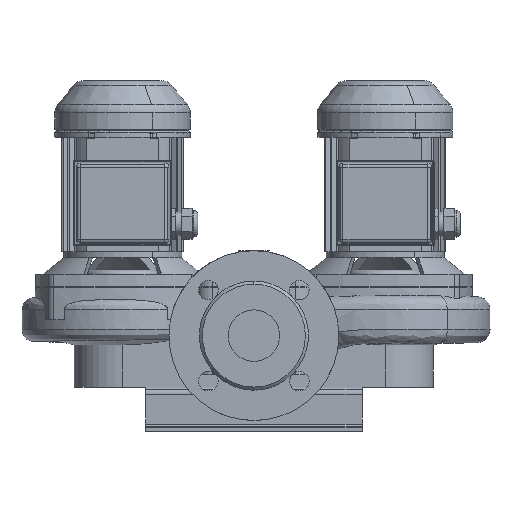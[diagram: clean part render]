
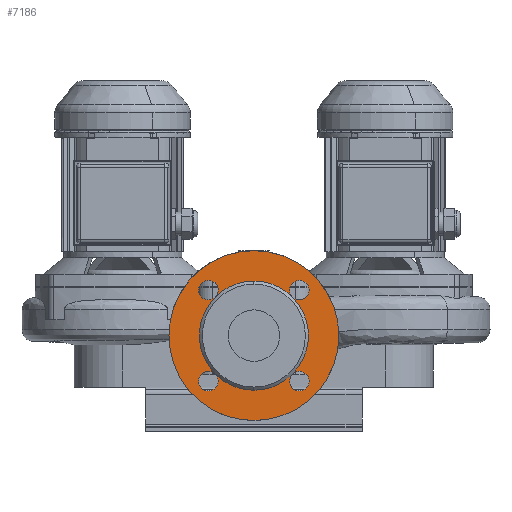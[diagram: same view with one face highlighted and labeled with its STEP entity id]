
A CAD part, front view. The second image highlights one B-rep face of the part: STEP entity #7186.
In plain terms, the highlighted planar face has unit normal (0, -1, 0) as drawn and (-1, 0, 0) by its records, which use the part's own axes.
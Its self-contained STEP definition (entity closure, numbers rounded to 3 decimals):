
#7186=ADVANCED_FACE('',(#14181,#14182),#14183,.T.);
#7230=EDGE_CURVE('',#14250,#14251,#14252,.T.);
#7232=EDGE_CURVE('',#14254,#14250,#14255,.T.);
#7234=EDGE_CURVE('',#14257,#14254,#14258,.T.);
#7238=EDGE_CURVE('',#14264,#14265,#14266,.T.);
#7242=EDGE_CURVE('',#14272,#14273,#14274,.T.);
#7246=EDGE_CURVE('',#14280,#14281,#14282,.T.);
#7250=EDGE_CURVE('',#14288,#14289,#14290,.T.);
#7254=EDGE_CURVE('',#14296,#14297,#14298,.T.);
#7446=EDGE_CURVE('',#14297,#14296,#14581,.T.);
#7450=EDGE_CURVE('',#14254,#14288,#14585,.T.);
#7452=EDGE_CURVE('',#14289,#14254,#14587,.T.);
#7454=EDGE_CURVE('',#14250,#14280,#14589,.T.);
#7456=EDGE_CURVE('',#14281,#14250,#14591,.T.);
#7458=EDGE_CURVE('',#14593,#14272,#14594,.T.);
#7460=EDGE_CURVE('',#14273,#14593,#14596,.T.);
#7462=EDGE_CURVE('',#14598,#14264,#14599,.T.);
#7464=EDGE_CURVE('',#14265,#14598,#14601,.T.);
#7466=EDGE_CURVE('',#14251,#14593,#14603,.T.);
#7468=EDGE_CURVE('',#14593,#14598,#14605,.T.);
#7470=EDGE_CURVE('',#14598,#14257,#14607,.T.);
#14181=FACE_OUTER_BOUND('',#24582,.T.);
#14182=FACE_BOUND('',#24583,.T.);
#14183=PLANE('',#24584);
#14250=VERTEX_POINT('',#25967);
#14251=VERTEX_POINT('',#25968);
#14252=CIRCLE('',#25969,53.0);
#14254=VERTEX_POINT('',#25972);
#14255=CIRCLE('',#25973,53.0);
#14257=VERTEX_POINT('',#25976);
#14258=CIRCLE('',#25977,53.0);
#14264=VERTEX_POINT('',#25985);
#14265=VERTEX_POINT('',#25986);
#14266=CIRCLE('',#25987,9.5);
#14272=VERTEX_POINT('',#25995);
#14273=VERTEX_POINT('',#25996);
#14274=CIRCLE('',#25997,9.5);
#14280=VERTEX_POINT('',#26005);
#14281=VERTEX_POINT('',#26006);
#14282=CIRCLE('',#26007,9.5);
#14288=VERTEX_POINT('',#26015);
#14289=VERTEX_POINT('',#26016);
#14290=CIRCLE('',#26017,9.5);
#14296=VERTEX_POINT('',#26025);
#14297=VERTEX_POINT('',#26026);
#14298=CIRCLE('',#26027,82.5);
#14581=CIRCLE('',#26486,82.5);
#14585=CIRCLE('',#26492,9.5);
#14587=CIRCLE('',#26495,9.5);
#14589=CIRCLE('',#26498,9.5);
#14591=CIRCLE('',#26501,9.5);
#14593=VERTEX_POINT('',#26504);
#14594=CIRCLE('',#26505,9.5);
#14596=CIRCLE('',#26508,9.5);
#14598=VERTEX_POINT('',#26511);
#14599=CIRCLE('',#26512,9.5);
#14601=CIRCLE('',#26515,9.5);
#14603=CIRCLE('',#26518,53.0);
#14605=CIRCLE('',#26521,53.0);
#14607=CIRCLE('',#26524,53.0);
#24582=EDGE_LOOP('',(#37401,#37402));
#24583=EDGE_LOOP('',(#37403,#37404,#37405,#37406,#37407,#37408,#37409,#37410,#37411,#37412,#37413,#37414,#37415,#37416,#37417,#37418,#37419,#37420));
#24584=AXIS2_PLACEMENT_3D('',#37421,#37422,#37423);
#25967=CARTESIAN_POINT('',(-157.0,37.477,21.977));
#25968=CARTESIAN_POINT('',(-157.0,0.,37.5));
#25969=AXIS2_PLACEMENT_3D('',#37583,#37584,#37585);
#25972=CARTESIAN_POINT('',(-157.0,37.477,-52.977));
#25973=AXIS2_PLACEMENT_3D('',#37586,#37587,#37588);
#25976=CARTESIAN_POINT('',(-157.0,0.,-68.5));
#25977=AXIS2_PLACEMENT_3D('',#37589,#37590,#37591);
#25985=CARTESIAN_POINT('',(-157.0,-49.553,-51.85));
#25986=CARTESIAN_POINT('',(-157.0,-38.835,-67.538));
#25987=AXIS2_PLACEMENT_3D('',#37595,#37596,#37597);
#25995=CARTESIAN_POINT('',(-157.,-36.35,34.053));
#25996=CARTESIAN_POINT('',(-157.,-52.038,23.335));
#25997=AXIS2_PLACEMENT_3D('',#37601,#37602,#37603);
#26005=CARTESIAN_POINT('',(-157.,49.553,20.85));
#26006=CARTESIAN_POINT('',(-157.,38.835,36.538));
#26007=AXIS2_PLACEMENT_3D('',#37607,#37608,#37609);
#26015=CARTESIAN_POINT('',(-157.0,36.35,-65.053));
#26016=CARTESIAN_POINT('',(-157.0,52.038,-54.335));
#26017=AXIS2_PLACEMENT_3D('',#37613,#37614,#37615);
#26025=CARTESIAN_POINT('',(-157.0,0.,-98.0));
#26026=CARTESIAN_POINT('',(-157.0,0.,67.0));
#26027=AXIS2_PLACEMENT_3D('',#37619,#37620,#37621);
#26486=AXIS2_PLACEMENT_3D('',#37859,#37860,#37861);
#26492=AXIS2_PLACEMENT_3D('',#37865,#37866,#37867);
#26495=AXIS2_PLACEMENT_3D('',#37868,#37869,#37870);
#26498=AXIS2_PLACEMENT_3D('',#37871,#37872,#37873);
#26501=AXIS2_PLACEMENT_3D('',#37874,#37875,#37876);
#26504=CARTESIAN_POINT('',(-157.0,-37.477,21.977));
#26505=AXIS2_PLACEMENT_3D('',#37877,#37878,#37879);
#26508=AXIS2_PLACEMENT_3D('',#37880,#37881,#37882);
#26511=CARTESIAN_POINT('',(-157.0,-37.477,-52.977));
#26512=AXIS2_PLACEMENT_3D('',#37883,#37884,#37885);
#26515=AXIS2_PLACEMENT_3D('',#37886,#37887,#37888);
#26518=AXIS2_PLACEMENT_3D('',#37889,#37890,#37891);
#26521=AXIS2_PLACEMENT_3D('',#37892,#37893,#37894);
#26524=AXIS2_PLACEMENT_3D('',#37895,#37896,#37897);
#37401=ORIENTED_EDGE('',*,*,#7446,.F.);
#37402=ORIENTED_EDGE('',*,*,#7254,.F.);
#37403=ORIENTED_EDGE('',*,*,#7230,.T.);
#37404=ORIENTED_EDGE('',*,*,#7466,.T.);
#37405=ORIENTED_EDGE('',*,*,#7458,.T.);
#37406=ORIENTED_EDGE('',*,*,#7242,.T.);
#37407=ORIENTED_EDGE('',*,*,#7460,.T.);
#37408=ORIENTED_EDGE('',*,*,#7468,.T.);
#37409=ORIENTED_EDGE('',*,*,#7462,.T.);
#37410=ORIENTED_EDGE('',*,*,#7238,.T.);
#37411=ORIENTED_EDGE('',*,*,#7464,.T.);
#37412=ORIENTED_EDGE('',*,*,#7470,.T.);
#37413=ORIENTED_EDGE('',*,*,#7234,.T.);
#37414=ORIENTED_EDGE('',*,*,#7450,.T.);
#37415=ORIENTED_EDGE('',*,*,#7250,.T.);
#37416=ORIENTED_EDGE('',*,*,#7452,.T.);
#37417=ORIENTED_EDGE('',*,*,#7232,.T.);
#37418=ORIENTED_EDGE('',*,*,#7454,.T.);
#37419=ORIENTED_EDGE('',*,*,#7246,.T.);
#37420=ORIENTED_EDGE('',*,*,#7456,.T.);
#37421=CARTESIAN_POINT('',(-157.0,0.,-83.25));
#37422=DIRECTION('',(-1.0,0.0,0.0));
#37423=DIRECTION('',(0.0,0.0,1.0));
#37583=CARTESIAN_POINT('',(-157.0,0.,-15.5));
#37584=DIRECTION('',(1.0,0.0,0.0));
#37585=DIRECTION('',(0.0,0.0,-1.0));
#37586=CARTESIAN_POINT('',(-157.0,0.,-15.5));
#37587=DIRECTION('',(1.0,0.0,0.0));
#37588=DIRECTION('',(0.0,0.0,-1.0));
#37589=CARTESIAN_POINT('',(-157.0,0.,-15.5));
#37590=DIRECTION('',(1.0,0.0,0.0));
#37591=DIRECTION('',(0.0,0.0,-1.0));
#37595=CARTESIAN_POINT('',(-157.0,-44.194,-59.694));
#37596=DIRECTION('',(1.0,0.0,0.0));
#37597=DIRECTION('',(0.0,-0.564,0.826));
#37601=CARTESIAN_POINT('',(-157.,-44.194,28.694));
#37602=DIRECTION('',(1.0,0.0,-0.0));
#37603=DIRECTION('',(0.0,0.826,0.564));
#37607=CARTESIAN_POINT('',(-157.,44.194,28.694));
#37608=DIRECTION('',(1.0,0.0,0.0));
#37609=DIRECTION('',(0.0,0.564,-0.826));
#37613=CARTESIAN_POINT('',(-157.0,44.194,-59.694));
#37614=DIRECTION('',(1.0,0.0,0.0));
#37615=DIRECTION('',(0.0,-0.826,-0.564));
#37619=CARTESIAN_POINT('',(-157.0,0.,-15.5));
#37620=DIRECTION('',(1.0,0.0,0.0));
#37621=DIRECTION('',(0.0,0.0,-1.0));
#37859=CARTESIAN_POINT('',(-157.0,0.,-15.5));
#37860=DIRECTION('',(1.0,0.0,0.0));
#37861=DIRECTION('',(0.0,0.0,-1.0));
#37865=CARTESIAN_POINT('',(-157.0,44.194,-59.694));
#37866=DIRECTION('',(1.0,0.0,0.0));
#37867=DIRECTION('',(0.0,-0.826,-0.564));
#37868=CARTESIAN_POINT('',(-157.0,44.194,-59.694));
#37869=DIRECTION('',(1.0,0.0,0.0));
#37870=DIRECTION('',(0.0,-0.826,-0.564));
#37871=CARTESIAN_POINT('',(-157.,44.194,28.694));
#37872=DIRECTION('',(1.0,0.0,0.0));
#37873=DIRECTION('',(0.0,0.564,-0.826));
#37874=CARTESIAN_POINT('',(-157.,44.194,28.694));
#37875=DIRECTION('',(1.0,0.0,0.0));
#37876=DIRECTION('',(0.0,0.564,-0.826));
#37877=CARTESIAN_POINT('',(-157.,-44.194,28.694));
#37878=DIRECTION('',(1.0,0.0,-0.0));
#37879=DIRECTION('',(0.0,0.826,0.564));
#37880=CARTESIAN_POINT('',(-157.,-44.194,28.694));
#37881=DIRECTION('',(1.0,0.0,-0.0));
#37882=DIRECTION('',(0.0,0.826,0.564));
#37883=CARTESIAN_POINT('',(-157.0,-44.194,-59.694));
#37884=DIRECTION('',(1.0,0.0,0.0));
#37885=DIRECTION('',(0.0,-0.564,0.826));
#37886=CARTESIAN_POINT('',(-157.0,-44.194,-59.694));
#37887=DIRECTION('',(1.0,0.0,0.0));
#37888=DIRECTION('',(0.0,-0.564,0.826));
#37889=CARTESIAN_POINT('',(-157.0,0.,-15.5));
#37890=DIRECTION('',(1.0,0.0,0.0));
#37891=DIRECTION('',(0.0,0.0,-1.0));
#37892=CARTESIAN_POINT('',(-157.0,0.,-15.5));
#37893=DIRECTION('',(1.0,0.0,0.0));
#37894=DIRECTION('',(0.0,0.0,-1.0));
#37895=CARTESIAN_POINT('',(-157.0,0.,-15.5));
#37896=DIRECTION('',(1.0,0.0,0.0));
#37897=DIRECTION('',(0.0,0.0,-1.0));
